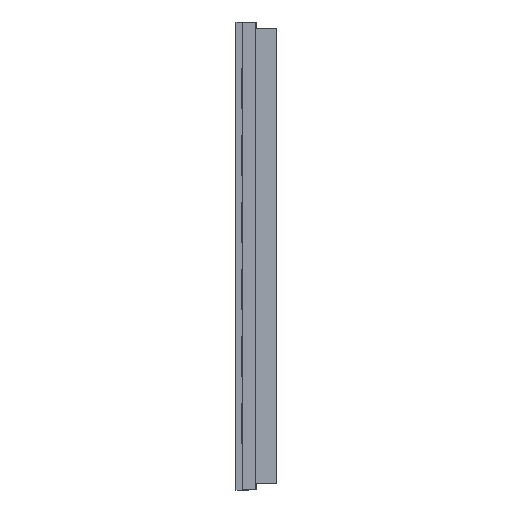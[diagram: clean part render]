
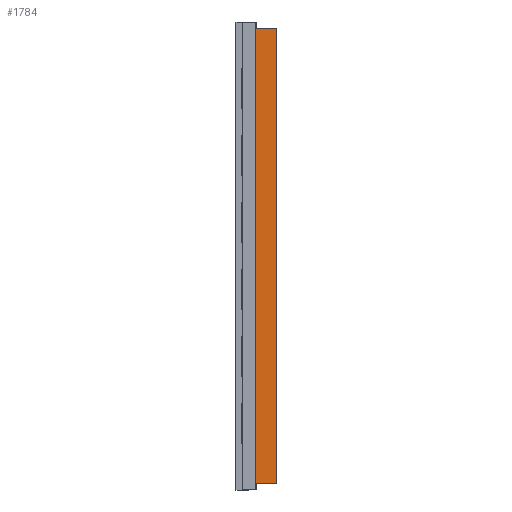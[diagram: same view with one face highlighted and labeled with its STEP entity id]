
A CAD part, left-side view. The second image highlights one B-rep face of the part: STEP entity #1784.
In plain terms, the highlighted planar face has unit normal (-1, 0, 0).
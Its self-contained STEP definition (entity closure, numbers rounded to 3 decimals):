
#53 = EDGE_CURVE ( 'NONE', #2292, #2603, #405, .T. ) ;
#59 = CARTESIAN_POINT ( 'NONE',  ( 0.05, -0.3, -3.45 ) ) ;
#71 = CARTESIAN_POINT ( 'NONE',  ( 0.05, -0.15, -0.05 ) ) ;
#185 = EDGE_LOOP ( 'NONE', ( #1230, #2463, #275, #1658 ) ) ;
#192 = FACE_OUTER_BOUND ( 'NONE', #185, .T. ) ;
#258 = EDGE_CURVE ( 'NONE', #1227, #2603, #1496, .T. ) ;
#275 = ORIENTED_EDGE ( 'NONE', *, *, #1812, .F. ) ;
#311 = LINE ( 'NONE', #1372, #1893 ) ;
#385 = DIRECTION ( 'NONE',  ( 0., 0., -1. ) ) ;
#405 = LINE ( 'NONE', #607, #2343 ) ;
#430 = CARTESIAN_POINT ( 'NONE',  ( 0.05, -0.3, -3.45 ) ) ;
#545 = DIRECTION ( 'NONE',  ( 0., 1., 0. ) ) ;
#607 = CARTESIAN_POINT ( 'NONE',  ( 0.05, -0.15, -0.05 ) ) ;
#795 = LINE ( 'NONE', #2223, #2255 ) ;
#834 = DIRECTION ( 'NONE',  ( 0., 0., -1. ) ) ;
#1042 = VECTOR ( 'NONE', #2078, 1000. ) ;
#1049 = EDGE_CURVE ( 'NONE', #1593, #2292, #311, .T. ) ;
#1073 = CARTESIAN_POINT ( 'NONE',  ( 0.05, -0.3, -0.05 ) ) ;
#1196 = CARTESIAN_POINT ( 'NONE',  ( 0.05, -0.15, -3.45 ) ) ;
#1212 = DIRECTION ( 'NONE',  ( 1., 0., 0. ) ) ;
#1227 = VERTEX_POINT ( 'NONE', #430 ) ;
#1230 = ORIENTED_EDGE ( 'NONE', *, *, #53, .T. ) ;
#1237 = CARTESIAN_POINT ( 'NONE',  ( 0.05, -0.3, -0.05 ) ) ;
#1372 = CARTESIAN_POINT ( 'NONE',  ( 0.05, -0.3, -0.05 ) ) ;
#1496 = LINE ( 'NONE', #59, #1042 ) ;
#1593 = VERTEX_POINT ( 'NONE', #1073 ) ;
#1658 = ORIENTED_EDGE ( 'NONE', *, *, #1049, .T. ) ;
#1686 = AXIS2_PLACEMENT_3D ( 'NONE', #1237, #1212, #834 ) ;
#1784 = ADVANCED_FACE ( 'NONE', ( #192 ), #1821, .F. ) ;
#1812 = EDGE_CURVE ( 'NONE', #1593, #1227, #795, .T. ) ;
#1821 = PLANE ( 'NONE',  #1686 ) ;
#1893 = VECTOR ( 'NONE', #545, 1000. ) ;
#2078 = DIRECTION ( 'NONE',  ( 0., 1., 0. ) ) ;
#2223 = CARTESIAN_POINT ( 'NONE',  ( 0.05, -0.3, -0.05 ) ) ;
#2255 = VECTOR ( 'NONE', #385, 1000. ) ;
#2267 = DIRECTION ( 'NONE',  ( 0., 0., -1. ) ) ;
#2292 = VERTEX_POINT ( 'NONE', #71 ) ;
#2343 = VECTOR ( 'NONE', #2267, 1000. ) ;
#2463 = ORIENTED_EDGE ( 'NONE', *, *, #258, .F. ) ;
#2603 = VERTEX_POINT ( 'NONE', #1196 ) ;
